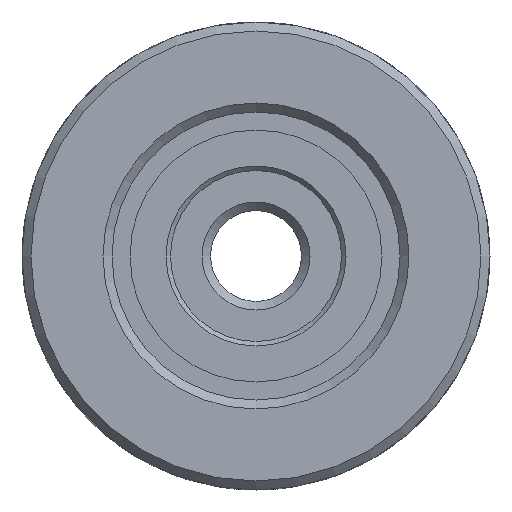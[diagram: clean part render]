
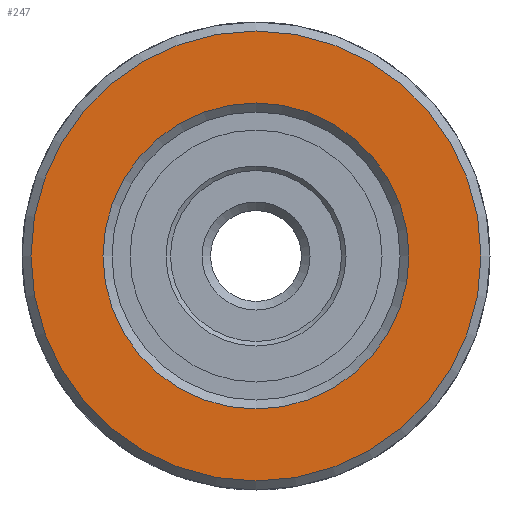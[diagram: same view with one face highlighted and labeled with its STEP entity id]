
A CAD part, left-side view. The second image highlights one B-rep face of the part: STEP entity #247.
In plain terms, the highlighted planar face has unit normal (-1, 0, 0) as drawn and (0, -1, 0) by its records, which use the part's own axes.
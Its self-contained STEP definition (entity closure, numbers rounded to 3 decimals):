
#247 = ADVANCED_FACE( '', ( #352, #353 ), #354, .T. );
#352 = FACE_OUTER_BOUND( '', #590, .T. );
#353 = FACE_BOUND( '', #591, .T. );
#354 = PLANE( '', #592 );
#590 = EDGE_LOOP( '', ( #835 ) );
#591 = EDGE_LOOP( '', ( #836 ) );
#592 = AXIS2_PLACEMENT_3D( '', #837, #838, #839 );
#835 = ORIENTED_EDGE( '', *, *, #1481, .T. );
#836 = ORIENTED_EDGE( '', *, *, #1480, .F. );
#837 = CARTESIAN_POINT( '', ( 17., 0., 0. ) );
#838 = DIRECTION( '', ( 0., -1., 0. ) );
#839 = DIRECTION( '', ( 0., 0., -1. ) );
#1480 = EDGE_CURVE( '', #1672, #1672, #1673, .T. );
#1481 = EDGE_CURVE( '', #1674, #1674, #1675, .T. );
#1672 = VERTEX_POINT( '', #2000 );
#1673 = CIRCLE( '', #2001, 17. );
#1674 = VERTEX_POINT( '', #2002 );
#1675 = CIRCLE( '', #2003, 25. );
#2000 = CARTESIAN_POINT( '', ( 0., 0., -17. ) );
#2001 = AXIS2_PLACEMENT_3D( '', #2716, #2717, #2718 );
#2002 = CARTESIAN_POINT( '', ( 0., 0., -25. ) );
#2003 = AXIS2_PLACEMENT_3D( '', #2719, #2720, #2721 );
#2716 = CARTESIAN_POINT( '', ( 0., 0., 0. ) );
#2717 = DIRECTION( '', ( 0., -1., 0. ) );
#2718 = DIRECTION( '', ( 0., 0., -1. ) );
#2719 = CARTESIAN_POINT( '', ( 0., 0., 0. ) );
#2720 = DIRECTION( '', ( 0., -1., 0. ) );
#2721 = DIRECTION( '', ( 0., 0., -1. ) );
